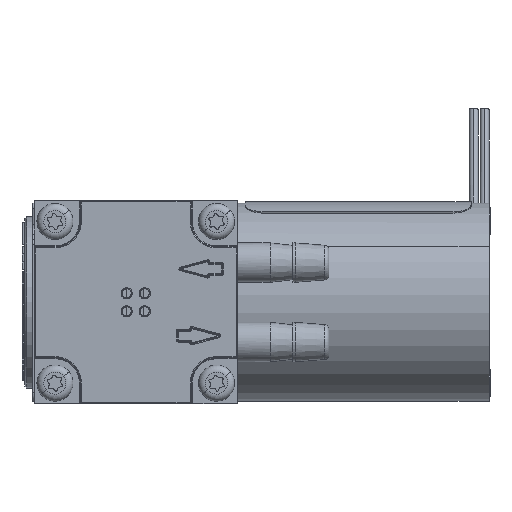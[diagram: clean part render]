
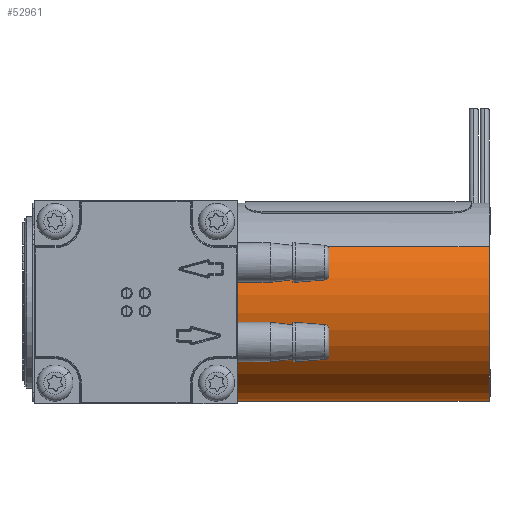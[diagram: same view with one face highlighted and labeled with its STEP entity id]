
A CAD part, front view. The second image highlights one B-rep face of the part: STEP entity #52961.
In plain terms, the highlighted cylindrical face has radius 11 mm (diameter 22 mm), a partial arc.
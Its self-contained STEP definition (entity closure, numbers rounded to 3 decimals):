
#66 = CARTESIAN_POINT ( 'NONE',  ( 0., 0., 0. ) ) ;
#830 = DIRECTION ( 'NONE',  ( -1., 0., 0. ) ) ;
#2565 = LINE ( 'NONE', #47288, #15926 ) ;
#2764 = CIRCLE ( 'NONE', #11255, 11. ) ;
#3457 = CARTESIAN_POINT ( 'NONE',  ( 31.9, -9.119, 6.151 ) ) ;
#5793 = CIRCLE ( 'NONE', #34989, 11. ) ;
#11255 = AXIS2_PLACEMENT_3D ( 'NONE', #66, #17798, #16928 ) ;
#12226 = VERTEX_POINT ( 'NONE', #45133 ) ;
#14084 = CYLINDRICAL_SURFACE ( 'NONE', #51736, 11. ) ;
#15926 = VECTOR ( 'NONE', #20296, 1000. ) ;
#16928 = DIRECTION ( 'NONE',  ( 0., -0.829, 0.559 ) ) ;
#17798 = DIRECTION ( 'NONE',  ( -1., 0., 0. ) ) ;
#18872 = DIRECTION ( 'NONE',  ( 0., -0.829, 0.559 ) ) ;
#19604 = EDGE_CURVE ( 'NONE', #56523, #22772, #2565, .T. ) ;
#20296 = DIRECTION ( 'NONE',  ( -1., 0., 0. ) ) ;
#21846 = ORIENTED_EDGE ( 'NONE', *, *, #46988, .T. ) ;
#22772 = VERTEX_POINT ( 'NONE', #42129 ) ;
#23500 = VECTOR ( 'NONE', #32314, 1000. ) ;
#24312 = ORIENTED_EDGE ( 'NONE', *, *, #19604, .F. ) ;
#26112 = CARTESIAN_POINT ( 'NONE',  ( -137.448, 0., 0. ) ) ;
#32314 = DIRECTION ( 'NONE',  ( -1., 0., 0. ) ) ;
#34989 = AXIS2_PLACEMENT_3D ( 'NONE', #41321, #830, #18872 ) ;
#39418 = DIRECTION ( 'NONE',  ( 0., -0.829, 0.559 ) ) ;
#41321 = CARTESIAN_POINT ( 'NONE',  ( 31.9, 0., 0. ) ) ;
#41497 = LINE ( 'NONE', #50411, #23500 ) ;
#42129 = CARTESIAN_POINT ( 'NONE',  ( 0., 9.119, -6.151 ) ) ;
#44690 = EDGE_LOOP ( 'NONE', ( #24312, #21846, #51073, #56437 ) ) ;
#45133 = CARTESIAN_POINT ( 'NONE',  ( 0., -9.119, 6.151 ) ) ;
#45482 = CARTESIAN_POINT ( 'NONE',  ( 31.9, 9.119, -6.151 ) ) ;
#45785 = EDGE_CURVE ( 'NONE', #49386, #12226, #41497, .T. ) ;
#45965 = EDGE_CURVE ( 'NONE', #22772, #12226, #2764, .T. ) ;
#46988 = EDGE_CURVE ( 'NONE', #56523, #49386, #5793, .T. ) ;
#47288 = CARTESIAN_POINT ( 'NONE',  ( -137.448, 9.119, -6.151 ) ) ;
#49386 = VERTEX_POINT ( 'NONE', #3457 ) ;
#50411 = CARTESIAN_POINT ( 'NONE',  ( -137.448, -9.119, 6.151 ) ) ;
#51073 = ORIENTED_EDGE ( 'NONE', *, *, #45785, .T. ) ;
#51736 = AXIS2_PLACEMENT_3D ( 'NONE', #26112, #57246, #39418 ) ;
#52961 = ADVANCED_FACE ( 'NONE', ( #54929 ), #14084, .T. ) ;
#54929 = FACE_OUTER_BOUND ( 'NONE', #44690, .T. ) ;
#56437 = ORIENTED_EDGE ( 'NONE', *, *, #45965, .F. ) ;
#56523 = VERTEX_POINT ( 'NONE', #45482 ) ;
#57246 = DIRECTION ( 'NONE',  ( -1., 0., 0. ) ) ;
